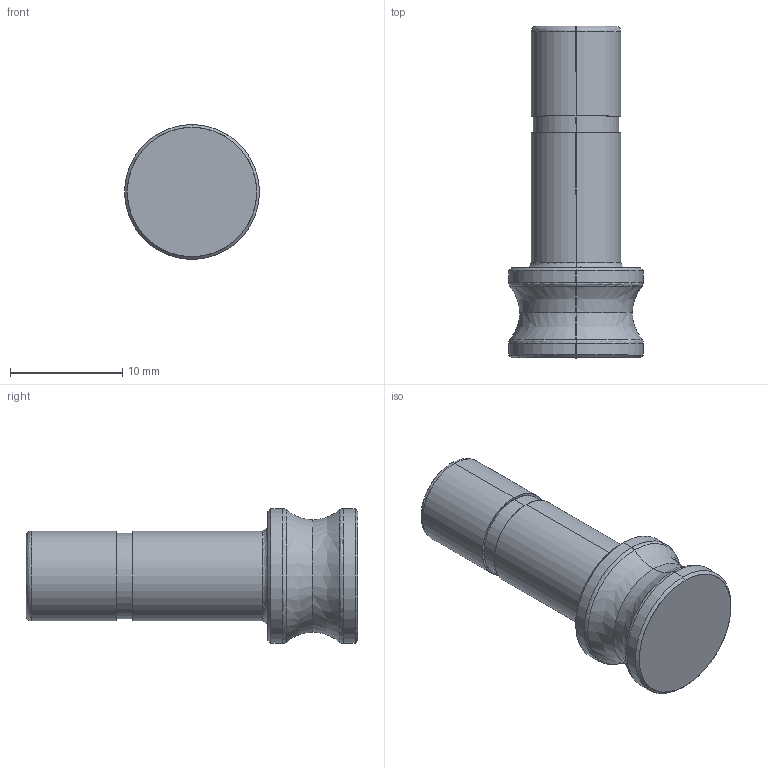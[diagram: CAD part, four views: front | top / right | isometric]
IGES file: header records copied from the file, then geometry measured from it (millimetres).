
Start section: SolidWorks IGES file using analytic representation for surfaces
Global section: file name: C:\Users\cad06\Desktop\Nuova cartella\576100001X700.IGS; native system: SolidWorks 2016; preprocessor: SolidWorks 2016; author: cad06; date: 160520.142523; units: millimetre
Bounding box: 12 x 29.5 x 12 mm (x, y, z)
Surface area: 1515.5 mm2 (no closed solid volume)
Topology: 0 solids, 0 shells, 35 faces, 408 edges, 406 vertices
Faces by surface type: revolution 18, bspline 17
